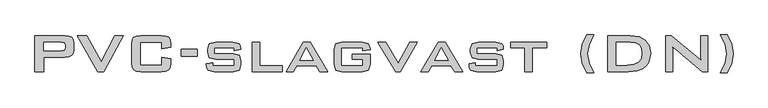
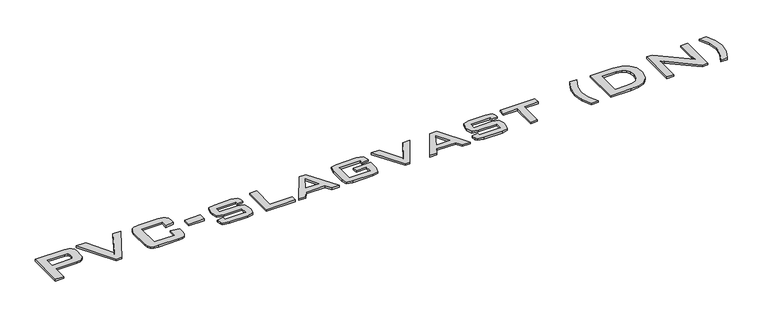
"""IFC4 building model written with IfcOpenShell, lengths in millimetres: flow terminal geometry, ondertitel : PVC Slagvast (DN)."""

from ifc_helpers import new_model, si_unit, origin, origin_with_axes, place, context, project, spatial, polyline, outline, extrude, source, transform, mapped, element, save


def flow_terminal_4c22bd95(model_context):
    return source(origin(), model_context, "Body", "SweptSolid", [
        extrude(outline(polyline([(-287.4619653, 18.5696186), (-287.4619653, 119.4798679), (-202.8865627, 119.4798679), (-191.7943189, 118.2933841), (-184.249701, 114.7339328), (-179.9215973, 108.533471), (-178.4788961, 99.4239559), (-178.4788961, 78.9896304), (-179.9215973, 69.8998243), (-184.249701, 63.6954207), (-191.7943189, 60.1241439), (-202.8865627, 58.9337184), (-263.2435055, 58.9337184), (-263.2435055, 18.5696186), (-287.4619653, 18.5696186)]), holes=[polyline([(-212.8199153, 101.316023), (-263.2435055, 101.316023), (-263.2435055, 77.0975632), (-212.8199153, 77.0975632), (-204.8416987, 78.6900531), (-202.6973559, 84.3504874), (-202.6973559, 94.1261678), (-204.8416987, 99.7077659), (-212.8199153, 101.316023)])]), origin_with_axes(), (0.0, 0.0, 1.0), 5.0),
        extrude(outline(polyline([(-110.4275468, 18.5696186), (-168.3878712, 119.4798679), (-141.7412585, 119.4798679), (-101.1564176, 46.5406784), (-62.4636439, 119.4798679), (-39.2227521, 119.4798679), (-94.3134413, 18.5696186), (-110.4275468, 18.5696186)])), origin_with_axes(), (0.0, 0.0, 1.0), 5.0),
        extrude(outline(polyline([(69.7603171, 101.316023), (9.2141675, 101.316023), (9.2141675, 36.7334635), (69.7603171, 36.7334635), (69.7603171, 58.9337184), (93.9787769, 53.9512748), (93.9787769, 41.7159071), (92.6425045, 30.4265729), (88.6336871, 23.4259244), (80.8801535, 19.7836951), (68.3097322, 18.5696186), (10.6647524, 18.5696186), (-1.964796, 19.7836951), (-9.7065042, 23.4259244), (-13.6798453, 30.4265729), (-15.0042923, 41.7159071), (-15.0042923, 95.7659593), (-13.6798453, 107.2642092), (-9.7065042, 114.4501227), (-1.964796, 118.2224316), (10.6647524, 119.4798679), (68.3097322, 119.4798679), (80.8801535, 118.2224316), (88.6336871, 114.4501227), (92.6425045, 107.2642092), (93.9787769, 95.7659593), (93.9787769, 86.6840369), (69.7603171, 83.1521782), (69.7603171, 101.316023)])), origin_with_axes(), (0.0, 0.0, 1.0), 5.0),
        extrude(outline(polyline([(124.2518517, 60.9519233), (124.2518517, 81.1339732), (168.6523614, 81.1339732), (168.6523614, 60.9519233), (124.2518517, 60.9519233)])), origin_with_axes(), (0.0, 0.0, 1.0), 5.0),
        extrude(outline(polyline([(273.5990206, 85.1703832), (217.089281, 85.1703832), (217.089281, 69.0247433), (270.5717131, 69.0247433), (287.4268782, 64.8779627), (291.7628655, 49.094969), (291.7628655, 38.1209794), (287.3322748, 22.6690975), (270.5717131, 18.5696186), (217.2784877, 18.5696186), (199.540358, 22.6690975), (196.0518591, 28.5818074), (194.8890262, 38.1209794), (194.8890262, 40.0130466), (213.052871, 42.7880785), (213.052871, 34.7152585), (273.5990206, 34.7152585), (273.5990206, 52.8791034), (220.5896053, 52.8791034), (203.4033285, 57.0101167), (198.9254361, 72.3358608), (198.9254361, 80.913232), (203.4033285, 96.9642685), (220.5896053, 101.316023), (269.3418695, 101.316023), (287.0011631, 97.1219408), (290.5724399, 91.3196015), (291.7628655, 82.3007479), (291.7628655, 80.4717497), (273.5990206, 77.0975632), (273.5990206, 85.1703832)])), origin_with_axes(), (0.0, 0.0, 1.0), 5.0),
        extrude(outline(polyline([(324.0541452, 18.5696186), (324.0541452, 101.316023), (344.2361951, 101.316023), (344.2361951, 34.7152585), (408.8187546, 34.7152585), (408.8187546, 18.5696186), (324.0541452, 18.5696186)])), origin_with_axes(), (0.0, 0.0, 1.0), 5.0),
        extrude(outline(polyline([(418.9097795, 18.5696186), (467.472837, 101.316023), (486.6457844, 101.316023), (535.9656687, 18.5696186), (513.5762071, 18.5696186), (503.264441, 34.7152585), (449.1513199, 34.7152585), (438.8395538, 18.5696186), (418.9097795, 18.5696186)]), holes=[polyline([(457.6340877, 50.8608984), (495.1600866, 50.8608984), (476.0817426, 86.0218134), (457.6340877, 50.8608984)])]), origin_with_axes(), (0.0, 0.0, 1.0), 5.0),
        extrude(outline(polyline([(634.857713, 85.1703832), (574.3115634, 85.1703832), (574.3115634, 34.7152585), (634.857713, 34.7152585), (634.857713, 52.8791034), (604.5846382, 52.8791034), (604.5846382, 67.0065383), (655.0397628, 67.0065383), (655.0397628, 38.5624618), (650.5461033, 22.7637009), (633.2809903, 18.5696186), (575.6675449, 18.5696186), (558.5758714, 22.7637009), (554.1295136, 38.5624618), (554.1295136, 81.260111), (558.5758714, 97.0904064), (575.6675449, 101.316023), (633.2809903, 101.316023), (650.4988016, 97.1692425), (655.0397628, 82.1430757), (655.0397628, 80.1248707), (634.857713, 77.0975632), (634.857713, 85.1703832)])), origin_with_axes(), (0.0, 0.0, 1.0), 5.0),
        extrude(outline(polyline([(726.906781, 18.5696186), (677.2400177, 101.316023), (699.9132893, 101.316023), (734.6957908, 41.3059592), (767.4916219, 101.316023), (788.2412919, 101.316023), (740.6558024, 18.5696186), (726.906781, 18.5696186)])), origin_with_axes(), (0.0, 0.0, 1.0), 5.0),
        extrude(outline(polyline([(798.3323168, 18.5696186), (846.8953743, 101.316023), (866.0683216, 101.316023), (915.3882059, 18.5696186), (892.9987444, 18.5696186), (882.6869783, 34.7152585), (828.5738571, 34.7152585), (818.262091, 18.5696186), (798.3323168, 18.5696186)]), holes=[polyline([(837.0566249, 50.8608984), (874.5826239, 50.8608984), (855.5042799, 86.0218134), (837.0566249, 50.8608984)])]), origin_with_axes(), (0.0, 0.0, 1.0), 5.0),
        extrude(outline(polyline([(1012.2620452, 85.1703832), (955.7523056, 85.1703832), (955.7523056, 69.0247433), (1009.2347378, 69.0247433), (1026.0899028, 64.8779627), (1030.4258901, 49.094969), (1030.4258901, 38.1209794), (1025.9952995, 22.6690975), (1009.2347378, 18.5696186), (955.9415124, 18.5696186), (938.2033826, 22.6690975), (934.7148838, 28.5818074), (933.5520508, 38.1209794), (933.5520508, 40.0130466), (951.7158957, 42.7880785), (951.7158957, 34.7152585), (1012.2620452, 34.7152585), (1012.2620452, 52.8791034), (959.2526299, 52.8791034), (942.0663531, 57.0101167), (937.5884608, 72.3358608), (937.5884608, 80.913232), (942.0663531, 96.9642685), (959.2526299, 101.316023), (1008.0048941, 101.316023), (1025.6641877, 97.1219408), (1029.2354645, 91.3196015), (1030.4258901, 82.3007479), (1030.4258901, 80.4717497), (1012.2620452, 77.0975632), (1012.2620452, 85.1703832)])), origin_with_axes(), (0.0, 0.0, 1.0), 5.0),
        extrude(outline(polyline([(1111.1540895, 85.1703832), (1111.1540895, 18.5696186), (1090.9720397, 18.5696186), (1090.9720397, 85.1703832), (1050.60794, 85.1703832), (1050.60794, 101.316023), (1151.5181892, 101.316023), (1151.5181892, 85.1703832), (1111.1540895, 85.1703832)])), origin_with_axes(), (0.0, 0.0, 1.0), 5.0),
        extrude(outline(polyline([(1264.6322718, 121.4980729), (1284.7197183, 121.4980729), (1271.0495329, 94.1577022), (1266.5558734, 67.9841063), (1271.0495329, 41.8735793), (1284.7197183, 14.5332087), (1264.6322718, 14.5332087), (1252.4599729, 40.7856407), (1248.3920285, 67.9841063), (1252.4599729, 95.2456409), (1264.6322718, 121.4980729)])), origin_with_axes(), (0.0, 0.0, 1.0), 5.0),
        extrude(outline(polyline([(1323.065613, 18.5696186), (1323.065613, 119.4798679), (1387.4905002, 119.4798679), (1411.6419494, 116.2357611), (1429.4786243, 106.5034405), (1440.4880901, 90.8032248), (1444.1579121, 69.6554323), (1438.4344089, 44.2071289), (1431.5480728, 34.0924531), (1422.3360707, 26.390163), (1406.2534997, 20.4301514), (1381.6566265, 18.5696186), (1323.065613, 18.5696186)]), holes=[polyline([(1347.2840728, 36.7334635), (1376.7687863, 36.7334635), (1396.8680582, 38.6412979), (1410.1164702, 44.3648011), (1417.4837068, 54.4794769), (1419.9394523, 69.560829), (1417.9015383, 83.3059086), (1411.7877962, 93.2589703), (1401.6849459, 99.3017599), (1387.679707, 101.316023), (1347.2840728, 101.316023), (1347.2840728, 36.7334635)])]), origin_with_axes(), (0.0, 0.0, 1.0), 5.0),
        extrude(outline(polyline([(1486.5402168, 18.5696186), (1486.5402168, 119.4798679), (1502.78046, 119.4798679), (1574.6159437, 60.0058898), (1581.1751099, 54.4242916), (1586.3467602, 49.0319001), (1585.6214678, 61.0465267), (1585.4322611, 66.501987), (1585.4322611, 119.4798679), (1605.6143109, 119.4798679), (1605.6143109, 18.5696186), (1589.3740677, 18.5696186), (1514.3851387, 80.913232), (1509.6076691, 85.2176848), (1505.8077675, 89.1121898), (1506.5015255, 80.2983102), (1506.7222666, 73.0926877), (1506.7222666, 18.5696186), (1486.5402168, 18.5696186)])), origin_with_axes(), (0.0, 0.0, 1.0), 5.0),
        extrude(outline(polyline([(1660.0112422, 121.4980729), (1672.1993082, 95.1037358), (1676.2514854, 67.9841063), (1672.1993082, 40.8802441), (1660.0112422, 14.5332087), (1639.9237957, 14.5332087), (1653.593981, 41.8735793), (1658.0876405, 67.9841063), (1653.593981, 94.1577022), (1639.9237957, 121.4980729), (1660.0112422, 121.4980729)])), origin_with_axes(), (0.0, 0.0, 1.0), 5.0),
    ])


if __name__ == "__main__":
    model = new_model("IFC4")
    model_context = context("Model", 3, world=origin())
    ifc_project = project(units=[si_unit("LENGTHUNIT", "METRE", prefix="MILLI")], contexts=[model_context])
    site = spatial("IfcSite", under=ifc_project)
    building = spatial("IfcBuilding", under=site)
    placement = place(None, origin())
    flow_terminal_shape = flow_terminal_4c22bd95(model_context)
    element("IfcFlowTerminal", 1, ObjectType="ondertitel : PVC Slagvast (DN)", at=placement, inside=building, context=model_context, shape_type="MappedRepresentation", body=[
        mapped(flow_terminal_shape, transform((0.0, 0.0, 0.0), x_axis=(1.0, 0.0, 0.0), y_axis=(0.0, 1.0, 0.0), z_axis=(0.0, 0.0, 1.0))),
    ])
    save(model, "model.ifc")
